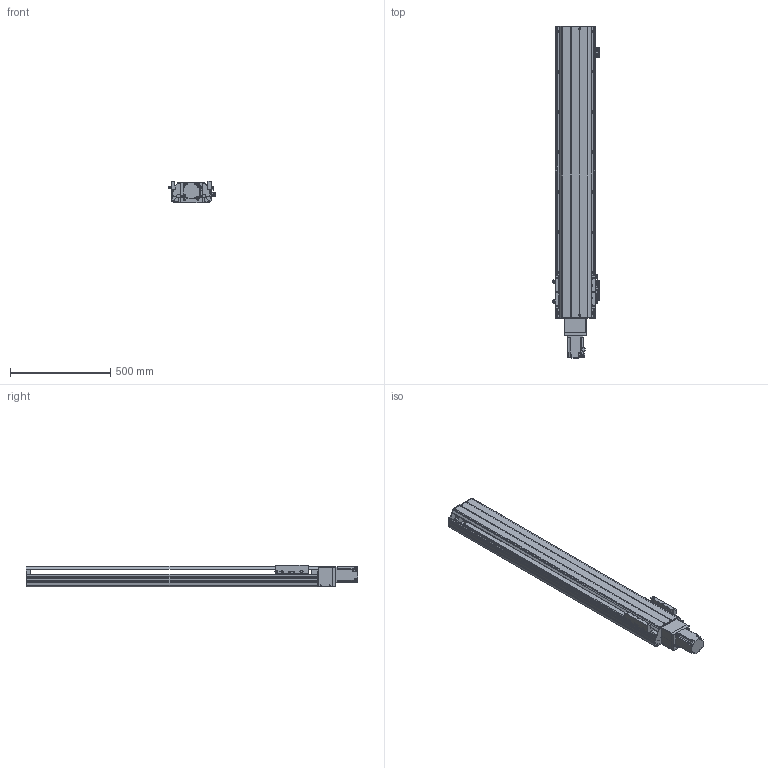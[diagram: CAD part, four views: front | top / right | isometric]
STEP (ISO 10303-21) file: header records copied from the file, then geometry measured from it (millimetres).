
FILE_DESCRIPTION(/* description */ ('MANUFACTURE'),/* implementation_level */ '2;1');
FILE_NAME(/* name */ '\\192.168.0.160\disk1\HAN SHIN Master\B-설계부문\C-표준\B-2024년\BC02-표준도면\+로봇 개선표준도면\표준 승인도 작업 폴더\3D\HG200\HG200직렬\HG200-S70-N-1200-R10.stp',/* time_stamp */ '2024-02-23T14:22:14+09:00',/* author */ ('User'),/* organization */ (''),/* preprocessor_version */ 'ST-DEVELOPER v18.1',/* originating_system */ 'Autodesk Inventor 2022',/* authorisation */ 'LIP');
FILE_SCHEMA (('AUTOMOTIVE_DESIGN { 1 0 10303 214 3 1 1 }'));
Products named in the file (19): HR200-S70-W0500-R10; HR200 S BASE-개선; HR180 FRONT BLOCK; HR180 FRONT BLOCK_1; HR200 FRONT COVER; HR120 STOPPER; HR200 SENSOR DOG; HR200 S UPCOVER; hsr_ftht_A-M6F_grease_nipple_joint; NIPPLE CAP(신규); SDWC-54C; HR200 FRONT COVER_1; HR200 TABLE (W,N); COUPLING COVER 400W-R1; hg-kr73_; HG200 S MOTOR PLATE-M; HG200 S MOTOR PLATE-B; SENSOR BRK(EE-SX674A); EE_SX674A
Assembly tree (31 placements, depth 2):
  HR200-S70-W0500-R10
    HR200 S BASE-개선
    HR180 FRONT BLOCK
    HR180 FRONT BLOCK_1
    HR200 FRONT COVER
    HR120 STOPPER  x2
    HR200 SENSOR DOG
    SENSOR BRK(EE-SX674A)  x3
    EE_SX674A  x3
    HR200 S UPCOVER
    NIPPLE CAP(신규)  x5
    hsr_ftht_A-M6F_grease_nipple_joint  x5
    SDWC-54C
    HR200 FRONT COVER_1
    HR200 TABLE (W,N)
    COUPLING COVER 400W-R1
    hg-kr73_
    HG200 S MOTOR PLATE-M
    HG200 S MOTOR PLATE-B
Bounding box: 231.46 x 1652 x 109 mm (x, y, z)
Volume: 9404267.9 mm3; surface area: 2464902.1 mm2
Topology: 31 solids, 49 shells, 2602 faces, 7032 edges, 4579 vertices
Faces by surface type: plane 1185, cylinder 936, cone 295, torus 122, sphere 40, bspline 24
Full cylindrical faces by diameter (mm): 2.459 x26, 3 x12, 3.242 x18, 3.3 x8, 3.5 x6, 4 x26, 4.134 x8, 4.2 x6, 4.5 x18, 4.917 x54, 5 x30, 5.34 x8, 5.35 x8, 5.4 x16, 5.5 x4, 5.6 x5, 5.9 x4, 6 x9, 6.5 x10, 6.6 x32, 6.647 x26, 7 x12, 7.6 x4, 8 x4, 8.5 x4, 9 x48, 9.85 x8, 10 x1, 11 x32, 14 x16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
Entity records: 69474 total; most frequent: CARTESIAN_POINT 14652, DIRECTION 11495, ORIENTED_EDGE 10864, EDGE_CURVE 5432, AXIS2_PLACEMENT_3D 4288, VERTEX_POINT 3607, LINE 2919, VECTOR 2919
